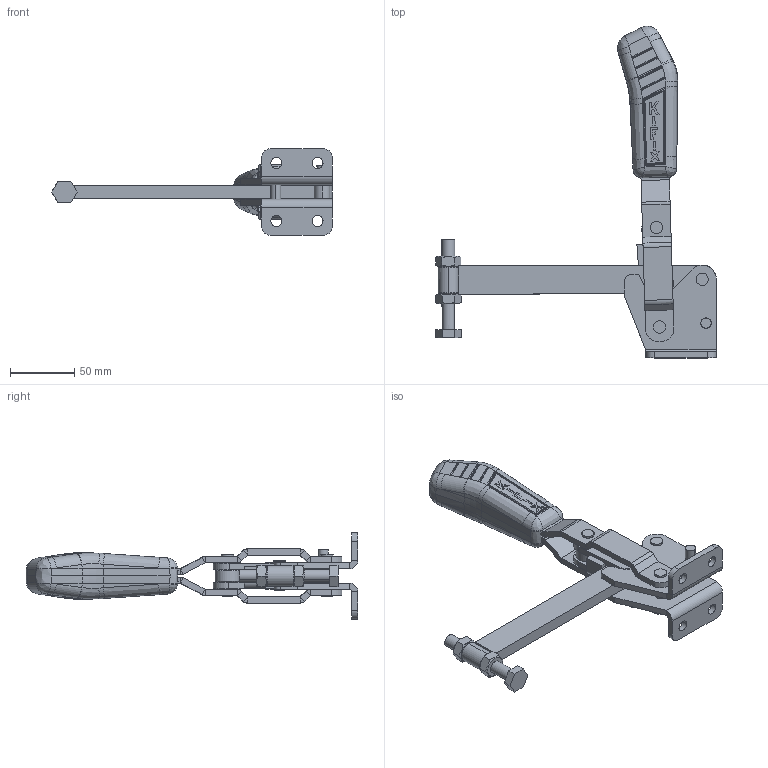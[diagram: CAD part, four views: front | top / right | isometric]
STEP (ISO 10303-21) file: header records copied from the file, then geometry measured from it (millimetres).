
FILE_DESCRIPTION (( 'STEP AP203' ), '1' );
FILE_NAME ('KF-111 DS.STEP', '2014-07-28T18:58:58', ( 'Ricardo' ), ( '' ), 'SwSTEP 2.0', 'SolidWorks 2013', '' );
FILE_SCHEMA (( 'CONFIG_CONTROL_DESIGN' ));
Length unit declared in the file: millimetre
Products named in the file (16): 11.50003; 04.10003B_Direita; 12.50021; 04.20003; PSB-M10; 05.20006; KF-111 DS; 06.50009; 06.50010; 02.12010_Direita; 07.60003; 02.12010_Esquerda; 03.15005; 01.10014; 20.20005; 04.10003A_Direita
Assembly tree (19 placements, depth 3):
  KF-111 DS
    02.12010_Direita
    02.12010_Esquerda
    01.10014  x2
    04.10003A_Direita
    04.10003B_Direita
    04.20003
    05.20006
    06.50009  x2
    06.50010  x2
    07.60003
    03.15005
    PSB-M10
      20.20005
      11.50003  x2
      12.50021
Bounding box: 217.8 x 257.54 x 67 mm (x, y, z)
Volume: 265679 mm3; surface area: 100691.1 mm2
Topology: 18 solids, 18 shells, 761 faces, 1849 edges, 1135 vertices
Faces by surface type: plane 296, cylinder 229, bspline 145, sphere 48, cone 40, torus 3
Entity records: 24828 total; most frequent: CARTESIAN_POINT 8780, ORIENTED_EDGE 3222, DIRECTION 2580, EDGE_CURVE 1611, VERTEX_POINT 1005, AXIS2_PLACEMENT_3D 999, EDGE_LOOP 732, ADVANCED_FACE 661
